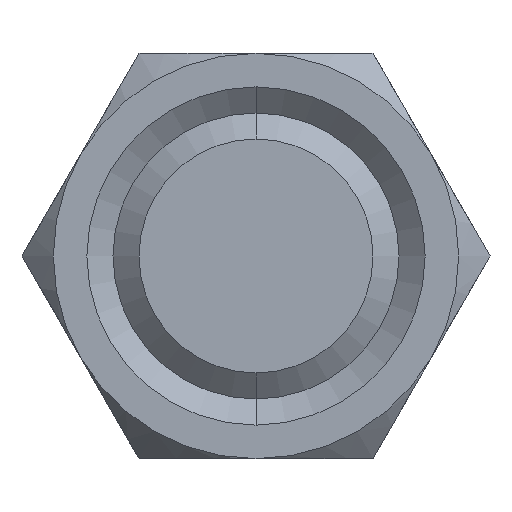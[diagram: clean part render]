
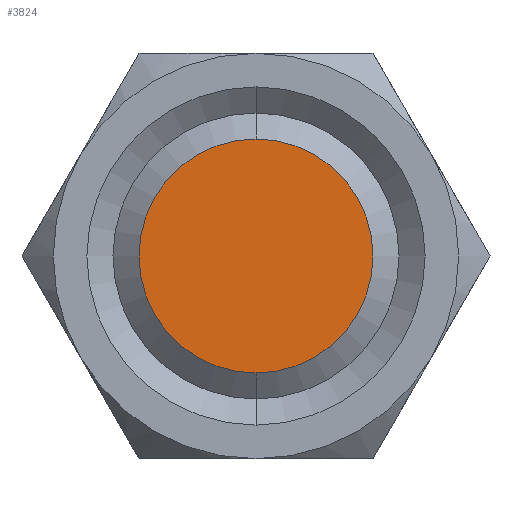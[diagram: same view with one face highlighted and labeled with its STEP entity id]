
A CAD part, front view. The second image highlights one B-rep face of the part: STEP entity #3824.
In plain terms, the highlighted planar face has unit normal (0, -1, 0).
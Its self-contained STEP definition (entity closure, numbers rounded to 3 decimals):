
#2560 = CARTESIAN_POINT ( 'NONE',  ( 0., -50.7, 4.907 ) ) ;
#2561 = CARTESIAN_POINT ( 'NONE',  ( 0., -50.7, -4.907 ) ) ;
#2562 = DIRECTION ( 'NONE',  ( 0., 0., -1. ) ) ;
#2563 = DIRECTION ( 'NONE',  ( 0., -1., 0. ) ) ;
#2564 = CARTESIAN_POINT ( 'NONE',  ( 0., -50.7, 0. ) ) ;
#2565 = AXIS2_PLACEMENT_3D ( 'NONE', #2564, #2563, #2562 ) ;
#2568 = CIRCLE ( 'NONE', #2565, 4.907 ) ;
#2694 = DIRECTION ( 'NONE',  ( 0., 0., -1. ) ) ;
#2695 = DIRECTION ( 'NONE',  ( 0., -1., 0. ) ) ;
#2696 = CARTESIAN_POINT ( 'NONE',  ( 0., -50.7, 0. ) ) ;
#2697 = AXIS2_PLACEMENT_3D ( 'NONE', #2696, #2695, #2694 ) ;
#2699 = DIRECTION ( 'NONE',  ( 0., 0., -1. ) ) ;
#2700 = DIRECTION ( 'NONE',  ( 0., -1., 0. ) ) ;
#2701 = CARTESIAN_POINT ( 'NONE',  ( 0., -50.7, 0. ) ) ;
#2702 = CIRCLE ( 'NONE', #2697, 4.907 ) ;
#2703 = AXIS2_PLACEMENT_3D ( 'NONE', #2701, #2700, #2699 ) ;
#2704 = PLANE ( 'NONE',  #2703 ) ;
#2705 = FACE_OUTER_BOUND ( 'NONE', #3825, .T. ) ;
#3728 = EDGE_CURVE ( 'NONE', #3729, #3730, #2568, .T. ) ;
#3729 = VERTEX_POINT ( 'NONE', #2561 ) ;
#3730 = VERTEX_POINT ( 'NONE', #2560 ) ;
#3824 = ADVANCED_FACE ( 'NONE', ( #2705 ), #2704, .T. ) ;
#3825 = EDGE_LOOP ( 'NONE', ( #3826, #3828 ) ) ;
#3826 = ORIENTED_EDGE ( 'NONE', *, *, #3827, .T. ) ;
#3827 = EDGE_CURVE ( 'NONE', #3730, #3729, #2702, .T. ) ;
#3828 = ORIENTED_EDGE ( 'NONE', *, *, #3728, .T. ) ;
